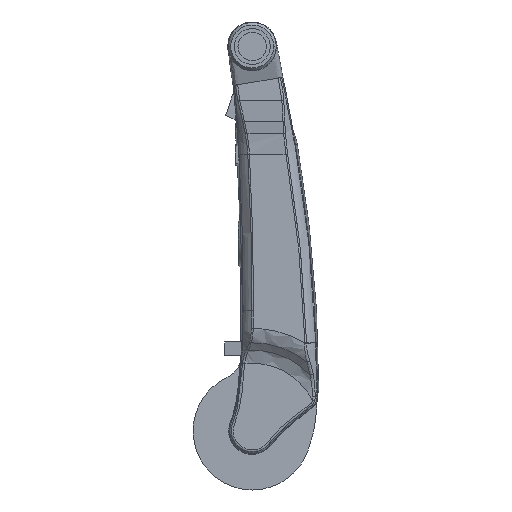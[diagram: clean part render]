
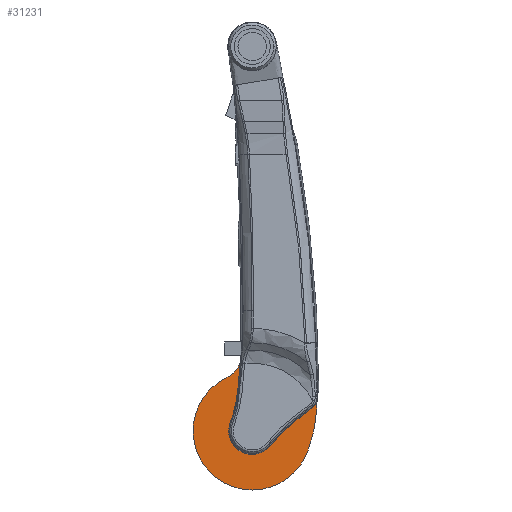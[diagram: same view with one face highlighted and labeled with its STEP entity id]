
A CAD part, front view. The second image highlights one B-rep face of the part: STEP entity #31231.
In plain terms, the highlighted planar face has unit normal (0, -1, 0).
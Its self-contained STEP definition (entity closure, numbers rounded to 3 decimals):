
#218 = CARTESIAN_POINT ( 'NONE',  ( 486.253, 87.5, 750.493 ) ) ;
#252 = EDGE_LOOP ( 'NONE', ( #26647, #35002, #28440, #4141, #7918, #6453, #14208, #12663, #38312, #42026, #16316, #18373, #40979 ) ) ;
#411 = EDGE_CURVE ( 'NONE', #41876, #38418, #36717, .T. ) ;
#415 =( BOUNDED_CURVE ( )  B_SPLINE_CURVE ( 3, ( #15552, #22155, #40168, #23523 ),
 .UNSPECIFIED., .F., .F. ) 
 B_SPLINE_CURVE_WITH_KNOTS ( ( 4, 4 ),
 ( 0., 0.001 ),
 .UNSPECIFIED. ) 
 CURVE ( )  GEOMETRIC_REPRESENTATION_ITEM ( )  RATIONAL_B_SPLINE_CURVE ( ( 1., 1., 1., 1. ) ) 
 REPRESENTATION_ITEM ( '' )  );
#440 = CARTESIAN_POINT ( 'NONE',  ( 508.018, 87.5, 832.618 ) ) ;
#480 = EDGE_CURVE ( 'NONE', #4811, #17317, #34206, .T. ) ;
#1275 = B_SPLINE_CURVE_WITH_KNOTS ( 'NONE', 3,
 ( #34940, #8760, #35498, #41959 ),
 .UNSPECIFIED., .F., .F.,
 ( 4, 4 ),
 ( 0., 0.018 ),
 .UNSPECIFIED. ) ;
#1667 = CIRCLE ( 'NONE', #26570, 196.944 ) ;
#1998 = CARTESIAN_POINT ( 'NONE',  ( 534.17, 87.5, 946.102 ) ) ;
#2441 = AXIS2_PLACEMENT_3D ( 'NONE', #32116, #35305, #32272 ) ;
#3436 = CARTESIAN_POINT ( 'NONE',  ( 508.018, 87.5, 832.618 ) ) ;
#3946 = VERTEX_POINT ( 'NONE', #8671 ) ;
#4141 = ORIENTED_EDGE ( 'NONE', *, *, #20594, .F. ) ;
#4501 = DIRECTION ( 'NONE',  ( 0., 0., 1. ) ) ;
#4631 = CARTESIAN_POINT ( 'NONE',  ( 300., 87.5, 617.556 ) ) ;
#4811 = VERTEX_POINT ( 'NONE', #31867 ) ;
#5026 = EDGE_CURVE ( 'NONE', #32223, #24926, #17449, .T. ) ;
#6453 = ORIENTED_EDGE ( 'NONE', *, *, #32278, .F. ) ;
#6583 = VECTOR ( 'NONE', #9331, 1000. ) ;
#6773 = CARTESIAN_POINT ( 'NONE',  ( 510.888, 87.5, 848.373 ) ) ;
#7210 = CARTESIAN_POINT ( 'NONE',  ( 180.247, 87.5, 1067.599 ) ) ;
#7541 = DIRECTION ( 'NONE',  ( 0., 0., -1. ) ) ;
#7842 = CARTESIAN_POINT ( 'NONE',  ( 300., 87.5, 814.5 ) ) ;
#7864 = EDGE_CURVE ( 'NONE', #3946, #23569, #24977, .T. ) ;
#7918 = ORIENTED_EDGE ( 'NONE', *, *, #7864, .F. ) ;
#8082 = CARTESIAN_POINT ( 'NONE',  ( 516.066, 87.5, 939.445 ) ) ;
#8671 = CARTESIAN_POINT ( 'NONE',  ( 263.225, 87.5, 1064.004 ) ) ;
#8760 = CARTESIAN_POINT ( 'NONE',  ( 514.728, 87.5, 891.918 ) ) ;
#9331 = DIRECTION ( 'NONE',  ( -0.031, 0., -1. ) ) ;
#9578 = B_SPLINE_CURVE_WITH_KNOTS ( 'NONE', 3,
 ( #3436, #26437, #9654, #13110 ),
 .UNSPECIFIED., .F., .F.,
 ( 4, 4 ),
 ( 0., 0.014 ),
 .UNSPECIFIED. ) ;
#9654 = CARTESIAN_POINT ( 'NONE',  ( 506.227, 87.5, 823.212 ) ) ;
#9815 = CARTESIAN_POINT ( 'NONE',  ( 512.889, 87.5, 864.236 ) ) ;
#10104 = CARTESIAN_POINT ( 'NONE',  ( 515.141, 87.5, 946.102 ) ) ;
#10372 = CARTESIAN_POINT ( 'NONE',  ( 514.017, 87.5, 880.205 ) ) ;
#10862 = DIRECTION ( 'NONE',  ( 0., 0., -1. ) ) ;
#11169 = DIRECTION ( 'NONE',  ( 0., 0., 1. ) ) ;
#11277 = CARTESIAN_POINT ( 'NONE',  ( 515.984, 87.5, 933.4 ) ) ;
#11451 = DIRECTION ( 'NONE',  ( 0., 1., 0. ) ) ;
#11597 = EDGE_CURVE ( 'NONE', #30192, #32223, #17063, .T. ) ;
#11914 = EDGE_CURVE ( 'NONE', #24926, #15250, #1275, .T. ) ;
#12138 = AXIS2_PLACEMENT_3D ( 'NONE', #7842, #11451, #11169 ) ;
#12390 = AXIS2_PLACEMENT_3D ( 'NONE', #25795, #31965, #32103 ) ;
#12663 = ORIENTED_EDGE ( 'NONE', *, *, #14826, .F. ) ;
#13110 = CARTESIAN_POINT ( 'NONE',  ( 505.217, 87.5, 818.532 ) ) ;
#13856 = CARTESIAN_POINT ( 'NONE',  ( 515.81, 87.5, 927.357 ) ) ;
#14033 = CARTESIAN_POINT ( 'NONE',  ( 300., 87.5, 814.5 ) ) ;
#14208 = ORIENTED_EDGE ( 'NONE', *, *, #411, .F. ) ;
#14286 = DIRECTION ( 'NONE',  ( 0., -1., 0. ) ) ;
#14314 = EDGE_CURVE ( 'NONE', #30192, #19336, #415, .T. ) ;
#14826 = EDGE_CURVE ( 'NONE', #17317, #41876, #1667, .T. ) ;
#15250 = VERTEX_POINT ( 'NONE', #37798 ) ;
#15552 = CARTESIAN_POINT ( 'NONE',  ( 516.056, 87.5, 945.491 ) ) ;
#16316 = ORIENTED_EDGE ( 'NONE', *, *, #42678, .F. ) ;
#16895 = CARTESIAN_POINT ( 'NONE',  ( 300., 87.5, 1066.7 ) ) ;
#17063 =( BOUNDED_CURVE ( )  B_SPLINE_CURVE ( 3, ( #31206, #8082, #11277, #31925 ),
 .UNSPECIFIED., .F., .F. ) 
 B_SPLINE_CURVE_WITH_KNOTS ( ( 4, 4 ),
 ( 0., 0.018 ),
 .UNSPECIFIED. ) 
 CURVE ( )  GEOMETRIC_REPRESENTATION_ITEM ( )  RATIONAL_B_SPLINE_CURVE ( ( 0.853, 0.853, 0.853, 0.853 ) ) 
 REPRESENTATION_ITEM ( '' )  );
#17317 = VERTEX_POINT ( 'NONE', #218 ) ;
#17449 = LINE ( 'NONE', #32455, #6583 ) ;
#17787 = DIRECTION ( 'NONE',  ( 0., 1., 0. ) ) ;
#17865 = EDGE_CURVE ( 'NONE', #38761, #4811, #9578, .T. ) ;
#17866 = LINE ( 'NONE', #1998, #20927 ) ;
#18196 = AXIS2_PLACEMENT_3D ( 'NONE', #7210, #14286, #4501 ) ;
#18373 = ORIENTED_EDGE ( 'NONE', *, *, #11914, .F. ) ;
#19336 = VERTEX_POINT ( 'NONE', #39603 ) ;
#20594 = EDGE_CURVE ( 'NONE', #23569, #34333, #32209, .T. ) ;
#20927 = VECTOR ( 'NONE', #41665, 1000. ) ;
#21290 = CARTESIAN_POINT ( 'NONE',  ( 215.769, 87.5, 992.523 ) ) ;
#22155 = CARTESIAN_POINT ( 'NONE',  ( 516.056, 87.5, 945.695 ) ) ;
#23139 = AXIS2_PLACEMENT_3D ( 'NONE', #39880, #33707, #10862 ) ;
#23504 = FACE_OUTER_BOUND ( 'NONE', #252, .T. ) ;
#23523 = CARTESIAN_POINT ( 'NONE',  ( 516.056, 87.5, 946.102 ) ) ;
#23569 = VERTEX_POINT ( 'NONE', #16895 ) ;
#23769 = B_SPLINE_CURVE_WITH_KNOTS ( 'NONE', 3,
 ( #10372, #9815, #6773, #440 ),
 .UNSPECIFIED., .F., .F.,
 ( 4, 4 ),
 ( 0., 0.048 ),
 .UNSPECIFIED. ) ;
#24926 = VERTEX_POINT ( 'NONE', #24954 ) ;
#24954 = CARTESIAN_POINT ( 'NONE',  ( 514.907, 87.5, 897.783 ) ) ;
#24977 = CIRCLE ( 'NONE', #12138, 252.2 ) ;
#25795 = CARTESIAN_POINT ( 'NONE',  ( 100., 87.5, 990.438 ) ) ;
#26432 = AXIS2_PLACEMENT_3D ( 'NONE', #41025, #37838, #31493 ) ;
#26437 = CARTESIAN_POINT ( 'NONE',  ( 507.161, 87.5, 827.907 ) ) ;
#26570 = AXIS2_PLACEMENT_3D ( 'NONE', #14033, #17787, #7541 ) ;
#26647 = ORIENTED_EDGE ( 'NONE', *, *, #11597, .F. ) ;
#28440 = ORIENTED_EDGE ( 'NONE', *, *, #35818, .F. ) ;
#29464 = CARTESIAN_POINT ( 'NONE',  ( 508.018, 87.5, 832.618 ) ) ;
#30192 = VERTEX_POINT ( 'NONE', #33003 ) ;
#31206 = CARTESIAN_POINT ( 'NONE',  ( 516.056, 87.5, 945.491 ) ) ;
#31231 = ADVANCED_FACE ( 'NONE', ( #23504 ), #31822, .F. ) ;
#31493 = DIRECTION ( 'NONE',  ( 0., 0., 1. ) ) ;
#31822 = PLANE ( 'NONE',  #12390 ) ;
#31867 = CARTESIAN_POINT ( 'NONE',  ( 505.217, 87.5, 818.532 ) ) ;
#31925 = CARTESIAN_POINT ( 'NONE',  ( 515.81, 87.5, 927.357 ) ) ;
#31965 = DIRECTION ( 'NONE',  ( 0., 1., 0. ) ) ;
#32103 = DIRECTION ( 'NONE',  ( 0., 0., 1. ) ) ;
#32116 = CARTESIAN_POINT ( 'NONE',  ( 300., 87.5, 814.5 ) ) ;
#32209 = CIRCLE ( 'NONE', #26432, 252.2 ) ;
#32223 = VERTEX_POINT ( 'NONE', #13856 ) ;
#32272 = DIRECTION ( 'NONE',  ( 0., 0., -1. ) ) ;
#32278 = EDGE_CURVE ( 'NONE', #38418, #3946, #39883, .T. ) ;
#32455 = CARTESIAN_POINT ( 'NONE',  ( 515.81, 87.5, 927.357 ) ) ;
#33003 = CARTESIAN_POINT ( 'NONE',  ( 516.056, 87.5, 945.491 ) ) ;
#33707 = DIRECTION ( 'NONE',  ( 0., 1., 0. ) ) ;
#34206 = CIRCLE ( 'NONE', #23139, 596.944 ) ;
#34333 = VERTEX_POINT ( 'NONE', #10104 ) ;
#34940 = CARTESIAN_POINT ( 'NONE',  ( 514.907, 87.5, 897.783 ) ) ;
#35002 = ORIENTED_EDGE ( 'NONE', *, *, #14314, .T. ) ;
#35305 = DIRECTION ( 'NONE',  ( 0., 1., 0. ) ) ;
#35498 = CARTESIAN_POINT ( 'NONE',  ( 514.431, 87.5, 886.059 ) ) ;
#35818 = EDGE_CURVE ( 'NONE', #34333, #19336, #17866, .T. ) ;
#36717 = CIRCLE ( 'NONE', #2441, 196.944 ) ;
#37798 = CARTESIAN_POINT ( 'NONE',  ( 514.017, 87.5, 880.205 ) ) ;
#37838 = DIRECTION ( 'NONE',  ( 0., 1., 0. ) ) ;
#38312 = ORIENTED_EDGE ( 'NONE', *, *, #480, .F. ) ;
#38418 = VERTEX_POINT ( 'NONE', #21290 ) ;
#38761 = VERTEX_POINT ( 'NONE', #29464 ) ;
#39603 = CARTESIAN_POINT ( 'NONE',  ( 516.056, 87.5, 946.102 ) ) ;
#39880 = CARTESIAN_POINT ( 'NONE',  ( -78.286, 87.5, 944.5 ) ) ;
#39883 = CIRCLE ( 'NONE', #18196, 83.056 ) ;
#40168 = CARTESIAN_POINT ( 'NONE',  ( 516.056, 87.5, 945.898 ) ) ;
#40979 = ORIENTED_EDGE ( 'NONE', *, *, #5026, .F. ) ;
#41025 = CARTESIAN_POINT ( 'NONE',  ( 300., 87.5, 814.5 ) ) ;
#41665 = DIRECTION ( 'NONE',  ( 1., 0., 0. ) ) ;
#41876 = VERTEX_POINT ( 'NONE', #4631 ) ;
#41959 = CARTESIAN_POINT ( 'NONE',  ( 514.017, 87.5, 880.205 ) ) ;
#42026 = ORIENTED_EDGE ( 'NONE', *, *, #17865, .F. ) ;
#42678 = EDGE_CURVE ( 'NONE', #15250, #38761, #23769, .T. ) ;
